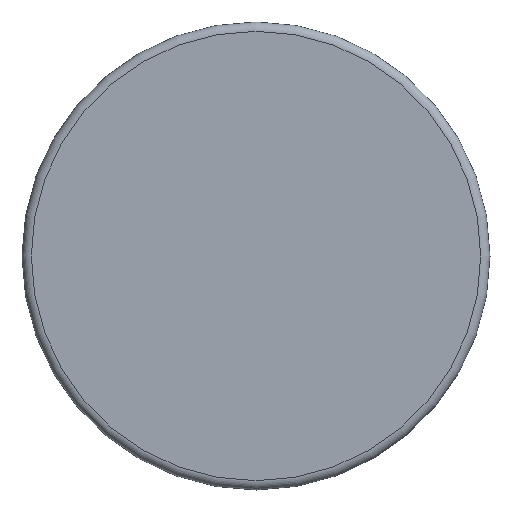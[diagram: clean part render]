
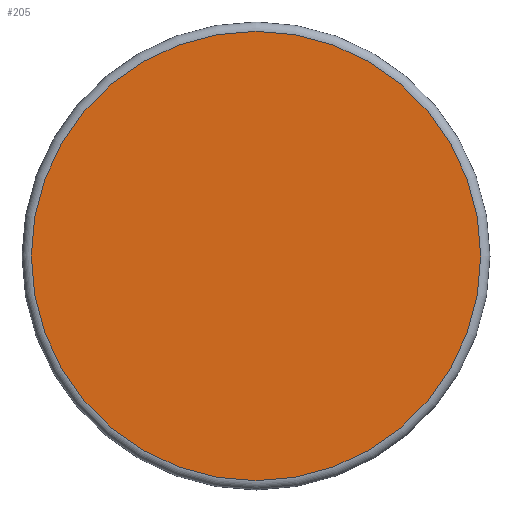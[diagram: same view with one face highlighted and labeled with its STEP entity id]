
A CAD part, left-side view. The second image highlights one B-rep face of the part: STEP entity #205.
In plain terms, the highlighted planar face has unit normal (-1, 0, 0).
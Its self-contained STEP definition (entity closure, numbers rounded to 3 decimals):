
#22=PLANE('',#260);
#46=FACE_OUTER_BOUND('',#59,.T.);
#59=EDGE_LOOP('',(#191,#192));
#64=CIRCLE('',#231,5.775);
#65=CIRCLE('',#232,5.775);
#87=VERTEX_POINT('',#346);
#88=VERTEX_POINT('',#348);
#110=EDGE_CURVE('',#87,#88,#64,.T.);
#111=EDGE_CURVE('',#88,#87,#65,.T.);
#191=ORIENTED_EDGE('',*,*,#111,.F.);
#192=ORIENTED_EDGE('',*,*,#110,.F.);
#205=ADVANCED_FACE('',(#46),#22,.T.);
#231=AXIS2_PLACEMENT_3D('',#349,#273,#274);
#232=AXIS2_PLACEMENT_3D('',#350,#275,#276);
#260=AXIS2_PLACEMENT_3D('',#400,#336,#337);
#273=DIRECTION('center_axis',(1.,0.,0.));
#274=DIRECTION('ref_axis',(0.,0.,-1.));
#275=DIRECTION('center_axis',(1.,0.,0.));
#276=DIRECTION('ref_axis',(0.,0.,-1.));
#336=DIRECTION('center_axis',(-1.,0.,0.));
#337=DIRECTION('ref_axis',(0.,0.,1.));
#346=CARTESIAN_POINT('',(0.,0.,5.775));
#348=CARTESIAN_POINT('',(0.,5.775,0.));
#349=CARTESIAN_POINT('Origin',(0.,0.,0.));
#350=CARTESIAN_POINT('Origin',(0.,0.,0.));
#400=CARTESIAN_POINT('Origin',(0.,5.775,0.));
